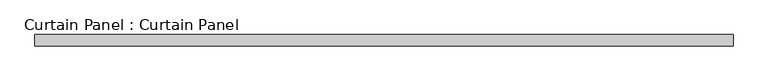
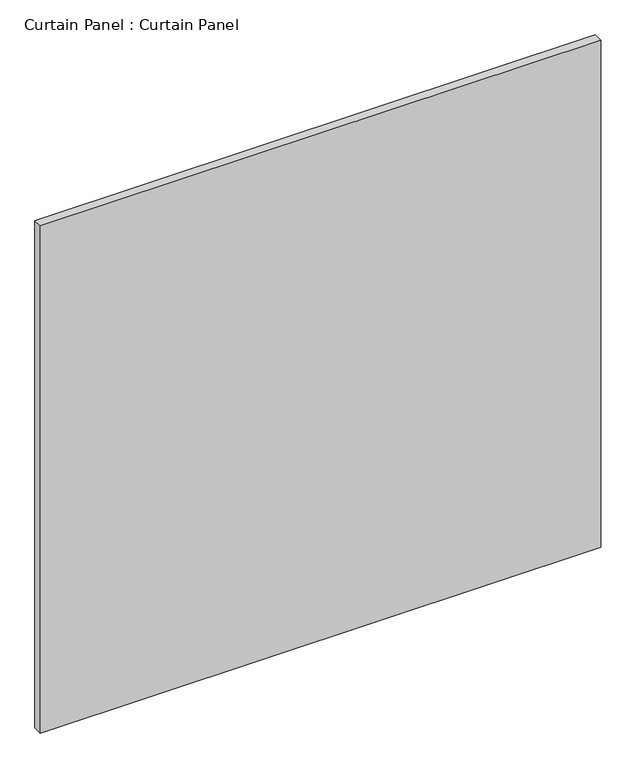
"""IFC4 building model written with IfcOpenShell, lengths in millimetres: plate geometry, Curtain Panel : Curtain Panel."""

from ifc_helpers import new_model, si_unit, frame, origin, place, context, project, spatial, polyline, outline, extrude, source, transform, mapped, element, save


def curtain_panel_curtain_panel_fb0028f6(model_context):
    return source(origin(), model_context, "Body", "SweptSolid", [
        extrude(outline(polyline([(8148.5757265, 11145.6336318), (6602.3507265, 11145.6336318), (6602.3507265, 11171.0336318), (8148.5757265, 11171.0336318), (8148.5757265, 11145.6336318)])), frame((0.0, 0.0, 9429.75), z_axis=(0.0, 0.0, 1.0), x_axis=(1.0, 0.0, 0.0)), (0.0, 0.0, 1.0), 1479.55),
    ])


if __name__ == "__main__":
    model = new_model("IFC4")
    model_context = context("Model", 3, world=origin())
    ifc_project = project(units=[si_unit("LENGTHUNIT", "METRE", prefix="MILLI")], contexts=[model_context])
    site = spatial("IfcSite", under=ifc_project)
    building = spatial("IfcBuilding", under=site)
    placement = place(None, origin())
    curtain_panel_curtain_panel_shape = curtain_panel_curtain_panel_fb0028f6(model_context)
    element("IfcPlate", 1, ObjectType="Curtain Panel : Curtain Panel", at=placement, inside=building, context=model_context, shape_type="MappedRepresentation", body=[
        mapped(curtain_panel_curtain_panel_shape, transform((0.0, 0.0, 0.0), x_axis=(1.0, 0.0, 0.0), y_axis=(0.0, 1.0, 0.0), z_axis=(0.0, 0.0, 1.0))),
    ])
    save(model, "model.ifc")
